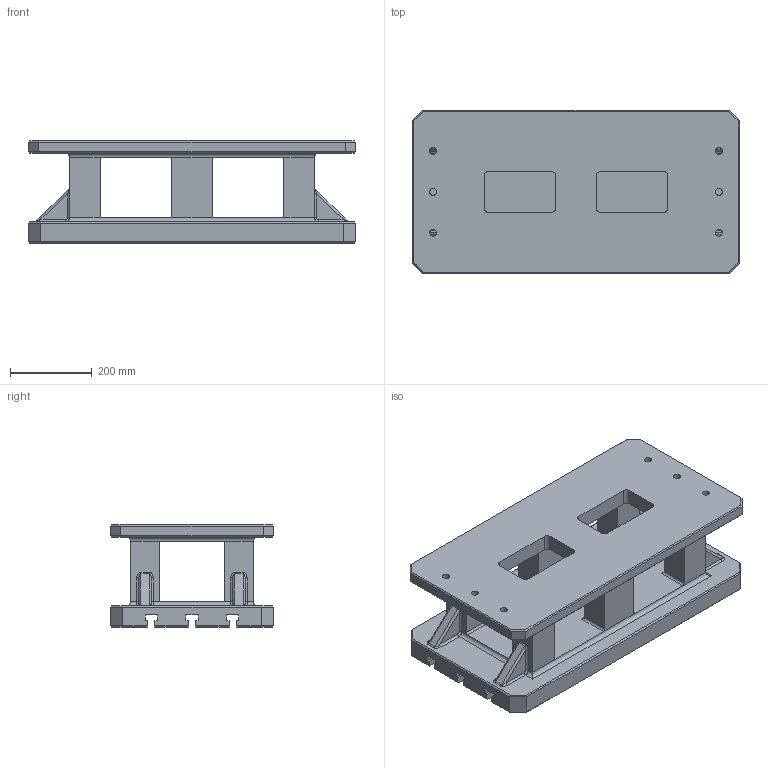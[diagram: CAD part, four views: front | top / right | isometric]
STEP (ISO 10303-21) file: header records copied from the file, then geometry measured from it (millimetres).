
FILE_DESCRIPTION((''),'2;1');
FILE_NAME('FG_WH_RISTL_TSL18NP004','2026-05-24T10:45:21',('Admin'),(''),'CREO PARAMETRIC BY PTC INC, 2025010','CREO PARAMETRIC BY PTC INC, 2025010','');
FILE_SCHEMA(('CONFIG_CONTROL_DESIGN'));
Length unit declared in the file: millimetre
Products named in the file (1): FG_WH_RISTL_TSL18NP004
Bounding box: 800 x 400 x 250 mm (x, y, z)
Volume: 32179828.3 mm3; surface area: 1864880.7 mm2
Topology: 1 solids, 1 shells, 262 faces, 658 edges, 396 vertices
Faces by surface type: plane 134, cylinder 104, bspline 24
Entity records: 8852 total; most frequent: CARTESIAN_POINT 2636, ORIENTED_EDGE 1316, DIRECTION 1230, EDGE_CURVE 658, VECTOR 450, LINE 450, VERTEX_POINT 396, AXIS2_PLACEMENT_3D 390
